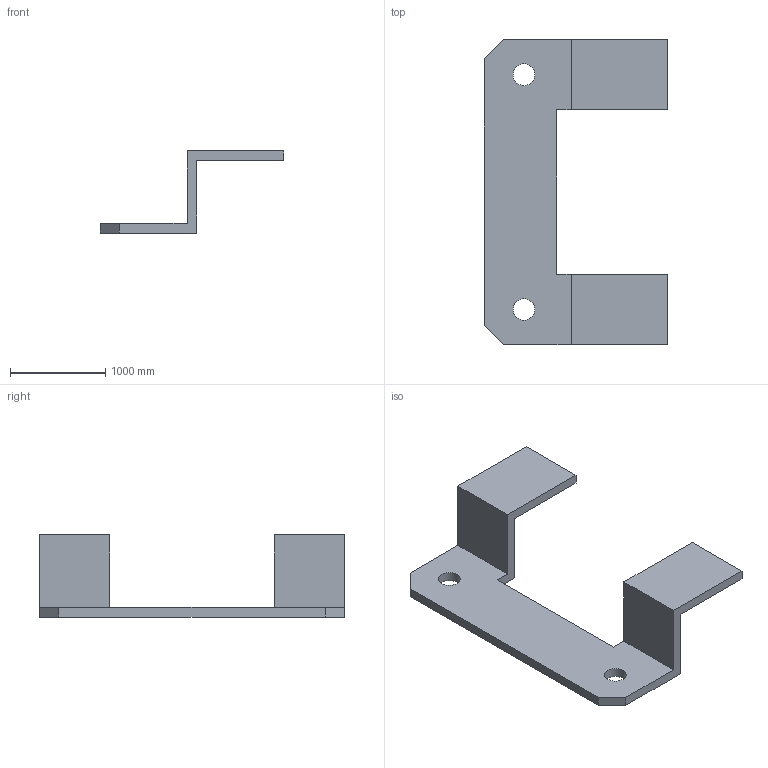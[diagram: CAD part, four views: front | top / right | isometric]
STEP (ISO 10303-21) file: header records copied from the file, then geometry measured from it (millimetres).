
FILE_DESCRIPTION(/* description */ (''),/* implementation_level */ '2;1');
FILE_NAME(/* name */ 'Dachreling_Halter_LM4678.step',/* time_stamp */ '2023-05-05T14:21:06+02:00',/* author */ (''),/* organization */ (''),/* preprocessor_version */ 'ST-DEVELOPER v19.2',/* originating_system */ 'Autodesk Translation Framework v12.4.0.73',/* authorisation */ '');
FILE_SCHEMA (('AUTOMOTIVE_DESIGN { 1 0 10303 214 3 1 1 }'));
Length unit declared in the file: millimetre
Products named in the file (1): _uchwyt do relingow.ae38aa7e-8b8e-4f2e-ba14-99c5a37269a2
Bounding box: 1930.4 x 3200.4 x 863.6 mm (x, y, z)
Volume: 524174032 mm3; surface area: 12029805.2 mm2
Topology: 1 solids, 1 shells, 22 faces, 60 edges, 40 vertices
Faces by surface type: plane 20, cylinder 2
Full cylindrical faces by diameter (mm): 228.6 x2
Entity records: 736 total; most frequent: CARTESIAN_POINT 123, ORIENTED_EDGE 120, DIRECTION 110, EDGE_CURVE 60, LINE 56, VECTOR 56, VERTEX_POINT 40, AXIS2_PLACEMENT_3D 27
